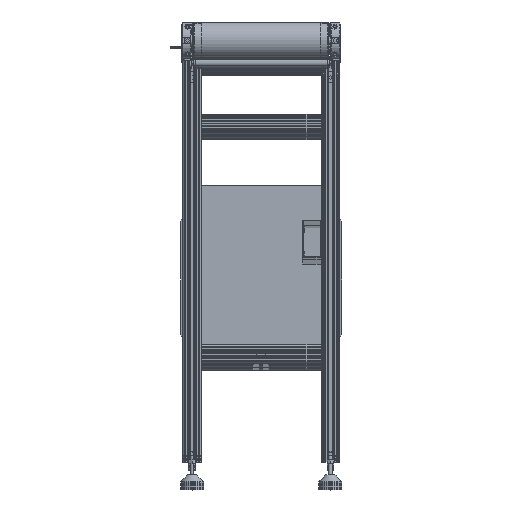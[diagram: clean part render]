
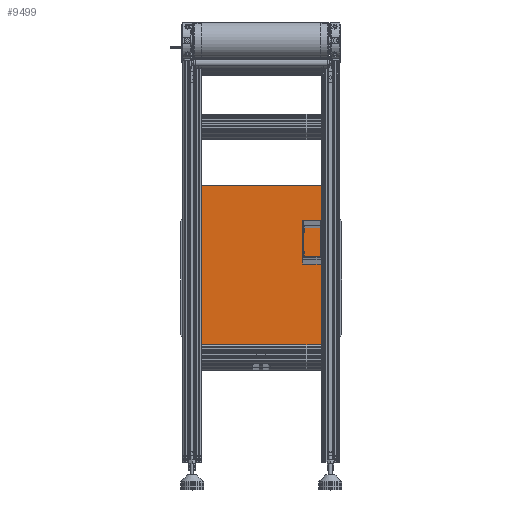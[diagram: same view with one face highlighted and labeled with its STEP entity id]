
A CAD part, top view. The second image highlights one B-rep face of the part: STEP entity #9499.
In plain terms, the highlighted planar face has unit normal (0, 0, 1) as drawn and (0, 0, -1) by its records, which use the part's own axes.
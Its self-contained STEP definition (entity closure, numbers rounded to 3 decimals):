
#6820=PLANE('',#46343);
#9499=ADVANCED_FACE('',(#11648),#6820,.T.);
#11648=FACE_OUTER_BOUND('',#13940,.T.);
#13940=EDGE_LOOP('',(#31308,#31309,#31310,#31311,#31312,#31313,#31314,#31315));
#17232=LINE('',#75330,#21306);
#17235=LINE('',#75338,#21309);
#17238=LINE('',#75346,#21312);
#17241=LINE('',#75354,#21315);
#21306=VECTOR('',#53567,1.);
#21309=VECTOR('',#53576,1.);
#21312=VECTOR('',#53585,1.);
#21315=VECTOR('',#53594,1.);
#31308=ORIENTED_EDGE('',*,*,#42682,.F.);
#31309=ORIENTED_EDGE('',*,*,#42697,.F.);
#31310=ORIENTED_EDGE('',*,*,#42695,.F.);
#31311=ORIENTED_EDGE('',*,*,#42693,.F.);
#31312=ORIENTED_EDGE('',*,*,#42691,.F.);
#31313=ORIENTED_EDGE('',*,*,#42689,.F.);
#31314=ORIENTED_EDGE('',*,*,#42687,.F.);
#31315=ORIENTED_EDGE('',*,*,#42685,.F.);
#37236=VERTEX_POINT('',#75325);
#37237=VERTEX_POINT('',#75326);
#37238=VERTEX_POINT('',#75331);
#37239=VERTEX_POINT('',#75335);
#37240=VERTEX_POINT('',#75339);
#37241=VERTEX_POINT('',#75343);
#37242=VERTEX_POINT('',#75347);
#37243=VERTEX_POINT('',#75351);
#42682=EDGE_CURVE('',#37236,#37237,#44434,.T.);
#42685=EDGE_CURVE('',#37237,#37238,#17232,.T.);
#42687=EDGE_CURVE('',#37238,#37239,#44435,.T.);
#42689=EDGE_CURVE('',#37239,#37240,#17235,.T.);
#42691=EDGE_CURVE('',#37240,#37241,#44436,.T.);
#42693=EDGE_CURVE('',#37241,#37242,#17238,.T.);
#42695=EDGE_CURVE('',#37242,#37243,#44437,.T.);
#42697=EDGE_CURVE('',#37243,#37236,#17241,.T.);
#44434=CIRCLE('',#46331,10.);
#44435=CIRCLE('',#46334,10.);
#44436=CIRCLE('',#46337,10.);
#44437=CIRCLE('',#46340,10.);
#46331=AXIS2_PLACEMENT_3D('',#75324,#53561,#53562);
#46334=AXIS2_PLACEMENT_3D('',#75334,#53571,#53572);
#46337=AXIS2_PLACEMENT_3D('',#75342,#53580,#53581);
#46340=AXIS2_PLACEMENT_3D('',#75350,#53589,#53590);
#46343=AXIS2_PLACEMENT_3D('',#75356,#53597,#53598);
#53561=DIRECTION('',(0.,0.,1.));
#53562=DIRECTION('',(-1.,0.,0.));
#53567=DIRECTION('',(0.,-1.,0.));
#53571=DIRECTION('',(0.,0.,1.));
#53572=DIRECTION('',(1.,0.,0.));
#53576=DIRECTION('',(1.,0.,0.));
#53580=DIRECTION('',(0.,0.,1.));
#53581=DIRECTION('',(-1.,0.,0.));
#53585=DIRECTION('',(0.,1.,0.));
#53589=DIRECTION('',(0.,0.,1.));
#53590=DIRECTION('',(-1.,0.,0.));
#53594=DIRECTION('',(-1.,0.,0.));
#53597=DIRECTION('',(0.,0.,-1.));
#53598=DIRECTION('',(1.,0.,0.));
#75324=CARTESIAN_POINT('',(-50.652,326.907,0.));
#75325=CARTESIAN_POINT('',(-50.652,336.907,0.));
#75326=CARTESIAN_POINT('',(-60.652,326.907,0.));
#75330=CARTESIAN_POINT('',(-60.652,326.907,0.));
#75331=CARTESIAN_POINT('',(-60.652,-53.093,0.));
#75334=CARTESIAN_POINT('',(-50.652,-53.093,0.));
#75335=CARTESIAN_POINT('',(-50.652,-63.093,0.));
#75338=CARTESIAN_POINT('',(-50.652,-63.093,0.));
#75339=CARTESIAN_POINT('',(229.348,-63.093,0.));
#75342=CARTESIAN_POINT('',(229.348,-53.093,0.));
#75343=CARTESIAN_POINT('',(239.348,-53.093,0.));
#75346=CARTESIAN_POINT('',(239.348,326.907,0.));
#75347=CARTESIAN_POINT('',(239.348,326.907,0.));
#75350=CARTESIAN_POINT('',(229.348,326.907,0.));
#75351=CARTESIAN_POINT('',(229.348,336.907,0.));
#75354=CARTESIAN_POINT('',(-50.652,336.907,0.));
#75356=CARTESIAN_POINT('',(-50.652,326.907,0.));
